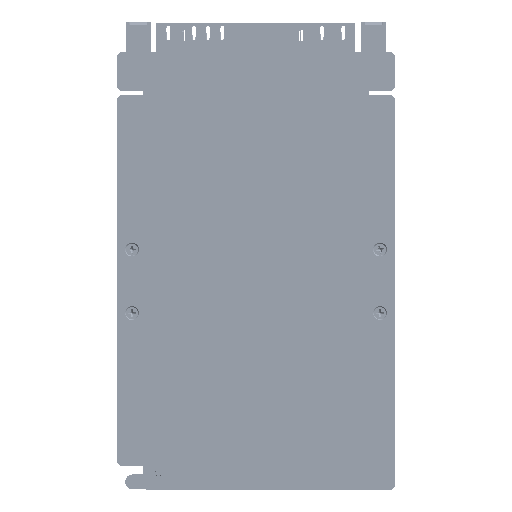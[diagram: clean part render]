
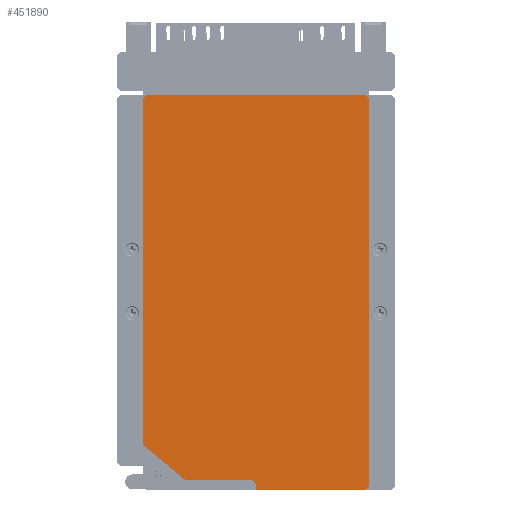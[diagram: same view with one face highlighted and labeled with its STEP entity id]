
A CAD part, front view. The second image highlights one B-rep face of the part: STEP entity #451890.
In plain terms, the highlighted planar face has unit normal (0, -1, 0).
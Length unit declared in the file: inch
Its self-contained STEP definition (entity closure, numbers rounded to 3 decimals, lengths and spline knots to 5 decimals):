
#965 = LINE ( 'NONE', #159792, #134909 ) ;
#18270 = LINE ( 'NONE', #177179, #511072 ) ;
#18627 = DIRECTION ( 'NONE',  ( 0., 0., 1. ) ) ;
#19417 = DIRECTION ( 'NONE',  ( 0.707, 0., 0.707 ) ) ;
#24938 = AXIS2_PLACEMENT_3D ( 'NONE', #459025, #101905, #260996 ) ;
#30229 = ORIENTED_EDGE ( 'NONE', *, *, #329237, .F. ) ;
#41968 = DIRECTION ( 'NONE',  ( -1., 0., 0. ) ) ;
#49575 = EDGE_CURVE ( 'NONE', #95732, #120196, #113892, .T. ) ;
#51261 = VECTOR ( 'NONE', #431952, 39.37008 ) ;
#58324 = EDGE_CURVE ( 'NONE', #257089, #457979, #426892, .T. ) ;
#59161 = AXIS2_PLACEMENT_3D ( 'NONE', #79462, #238481, #397566 ) ;
#66920 = CARTESIAN_POINT ( 'NONE',  ( 1.5985, 0., -2.75 ) ) ;
#69035 = VECTOR ( 'NONE', #118694, 39.37008 ) ;
#69715 = CARTESIAN_POINT ( 'NONE',  ( 0.0015, 0., -2.8 ) ) ;
#70391 = EDGE_CURVE ( 'NONE', #95732, #398177, #316908, .T. ) ;
#79462 = CARTESIAN_POINT ( 'NONE',  ( 0., 0., 0. ) ) ;
#95732 = VERTEX_POINT ( 'NONE', #297760 ) ;
#101905 = DIRECTION ( 'NONE',  ( 0., 1., 0. ) ) ;
#105128 = DIRECTION ( 'NONE',  ( -0.707, 0., 0.707 ) ) ;
#113892 = LINE ( 'NONE', #273008, #51261 ) ;
#116074 = LINE ( 'NONE', #275206, #136889 ) ;
#118694 = DIRECTION ( 'NONE',  ( 1., 0., 0. ) ) ;
#120196 = VERTEX_POINT ( 'NONE', #410879 ) ;
#125563 = VERTEX_POINT ( 'NONE', #371264 ) ;
#132485 = EDGE_CURVE ( 'NONE', #187535, #144169, #965, .T. ) ;
#134909 = VECTOR ( 'NONE', #318900, 39.37008 ) ;
#136154 = VECTOR ( 'NONE', #228715, 39.37008 ) ;
#136889 = VECTOR ( 'NONE', #434141, 39.37008 ) ;
#143885 = VECTOR ( 'NONE', #19417, 39.37008 ) ;
#144169 = VERTEX_POINT ( 'NONE', #180613 ) ;
#147792 = ORIENTED_EDGE ( 'NONE', *, *, #279826, .T. ) ;
#148929 = VERTEX_POINT ( 'NONE', #502857 ) ;
#152767 = VERTEX_POINT ( 'NONE', #249339 ) ;
#158896 = EDGE_CURVE ( 'NONE', #152767, #257089, #240077, .T. ) ;
#159792 = CARTESIAN_POINT ( 'NONE',  ( 1.5985, 0., -2.80004 ) ) ;
#171161 = EDGE_CURVE ( 'NONE', #152767, #187535, #217458, .T. ) ;
#177179 = CARTESIAN_POINT ( 'NONE',  ( -1.5985, 0., -2.163 ) ) ;
#180613 = CARTESIAN_POINT ( 'NONE',  ( 1.5985, 0., 2.75 ) ) ;
#181461 = ORIENTED_EDGE ( 'NONE', *, *, #420905, .F. ) ;
#183541 = VECTOR ( 'NONE', #105128, 39.37008 ) ;
#187535 = VERTEX_POINT ( 'NONE', #66920 ) ;
#194574 = EDGE_LOOP ( 'NONE', ( #220364, #507052, #379621, #147792, #306810, #407123, #30229, #181461, #429293, #471218, #415330 ) ) ;
#216677 = LINE ( 'NONE', #375767, #408245 ) ;
#217458 = LINE ( 'NONE', #376525, #143885 ) ;
#220364 = ORIENTED_EDGE ( 'NONE', *, *, #158896, .F. ) ;
#228715 = DIRECTION ( 'NONE',  ( 0., 0., 1. ) ) ;
#238481 = DIRECTION ( 'NONE',  ( 0., 1., 0. ) ) ;
#240077 = LINE ( 'NONE', #399135, #487150 ) ;
#249339 = CARTESIAN_POINT ( 'NONE',  ( 1.5485, 0., -2.8 ) ) ;
#249652 = CIRCLE ( 'NONE', #24938, 0.1 ) ;
#257089 = VERTEX_POINT ( 'NONE', #422484 ) ;
#259053 = EDGE_CURVE ( 'NONE', #509975, #148929, #116074, .T. ) ;
#260996 = DIRECTION ( 'NONE',  ( 0., 0., 1. ) ) ;
#273008 = CARTESIAN_POINT ( 'NONE',  ( -1.5985, 0., 2.75 ) ) ;
#275206 = CARTESIAN_POINT ( 'NONE',  ( -1.5985, 0., -2.656 ) ) ;
#277641 = FACE_OUTER_BOUND ( 'NONE', #194574, .T. ) ;
#279826 = EDGE_CURVE ( 'NONE', #144169, #398177, #303275, .T. ) ;
#287644 = CARTESIAN_POINT ( 'NONE',  ( 0.0015, 0., -2.756 ) ) ;
#289211 = CARTESIAN_POINT ( 'NONE',  ( -0.0985, 0., -2.656 ) ) ;
#297760 = CARTESIAN_POINT ( 'NONE',  ( -1.5485, 0., 2.8 ) ) ;
#303275 = LINE ( 'NONE', #462232, #183541 ) ;
#306810 = ORIENTED_EDGE ( 'NONE', *, *, #70391, .F. ) ;
#316908 = LINE ( 'NONE', #475857, #69035 ) ;
#318900 = DIRECTION ( 'NONE',  ( 0., 0., 1. ) ) ;
#329237 = EDGE_CURVE ( 'NONE', #125563, #120196, #216677, .T. ) ;
#336271 = DIRECTION ( 'NONE',  ( -0.768, 0., 0.64 ) ) ;
#371264 = CARTESIAN_POINT ( 'NONE',  ( -1.5985, 0., -2.163 ) ) ;
#375767 = CARTESIAN_POINT ( 'NONE',  ( -1.5985, 0., -2.80004 ) ) ;
#376525 = CARTESIAN_POINT ( 'NONE',  ( 1.5985, 0., -2.75 ) ) ;
#379621 = ORIENTED_EDGE ( 'NONE', *, *, #132485, .T. ) ;
#382980 = CARTESIAN_POINT ( 'NONE',  ( 1.5485, 0., 2.8 ) ) ;
#388962 = EDGE_CURVE ( 'NONE', #509975, #457979, #249652, .T. ) ;
#397566 = DIRECTION ( 'NONE',  ( 0., 0., 1. ) ) ;
#398177 = VERTEX_POINT ( 'NONE', #382980 ) ;
#399135 = CARTESIAN_POINT ( 'NONE',  ( -1.9685, 0., -2.8 ) ) ;
#407123 = ORIENTED_EDGE ( 'NONE', *, *, #49575, .T. ) ;
#408245 = VECTOR ( 'NONE', #18627, 39.37008 ) ;
#410879 = CARTESIAN_POINT ( 'NONE',  ( -1.5985, 0., 2.75 ) ) ;
#415330 = ORIENTED_EDGE ( 'NONE', *, *, #58324, .F. ) ;
#420905 = EDGE_CURVE ( 'NONE', #148929, #125563, #18270, .T. ) ;
#422484 = CARTESIAN_POINT ( 'NONE',  ( 0.0015, 0., -2.8 ) ) ;
#426892 = LINE ( 'NONE', #69715, #136154 ) ;
#429293 = ORIENTED_EDGE ( 'NONE', *, *, #259053, .F. ) ;
#431952 = DIRECTION ( 'NONE',  ( -0.707, 0., -0.707 ) ) ;
#434141 = DIRECTION ( 'NONE',  ( -1., 0., 0. ) ) ;
#436621 = PLANE ( 'NONE',  #59161 ) ;
#451890 = ADVANCED_FACE ( 'NONE', ( #277641 ), #436621, .F. ) ;
#457979 = VERTEX_POINT ( 'NONE', #287644 ) ;
#459025 = CARTESIAN_POINT ( 'NONE',  ( -0.0985, 0., -2.756 ) ) ;
#462232 = CARTESIAN_POINT ( 'NONE',  ( 1.5985, 0., 2.75 ) ) ;
#471218 = ORIENTED_EDGE ( 'NONE', *, *, #388962, .T. ) ;
#475857 = CARTESIAN_POINT ( 'NONE',  ( -1.9685, 0., 2.8 ) ) ;
#487150 = VECTOR ( 'NONE', #41968, 39.37008 ) ;
#502857 = CARTESIAN_POINT ( 'NONE',  ( -1.0065, 0., -2.656 ) ) ;
#507052 = ORIENTED_EDGE ( 'NONE', *, *, #171161, .T. ) ;
#509975 = VERTEX_POINT ( 'NONE', #289211 ) ;
#511072 = VECTOR ( 'NONE', #336271, 39.37008 ) ;
